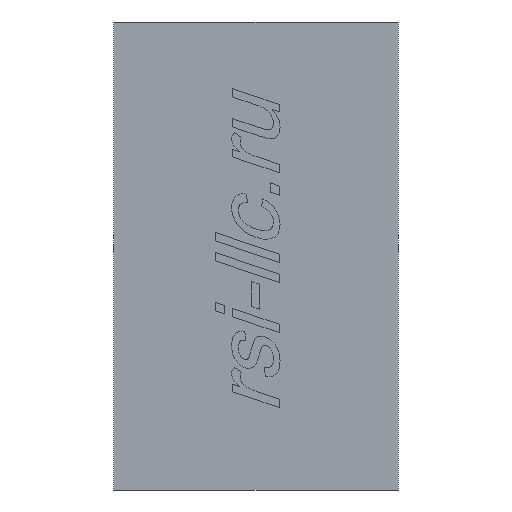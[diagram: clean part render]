
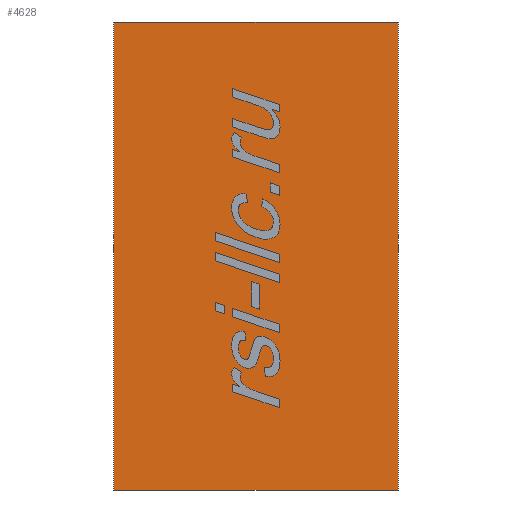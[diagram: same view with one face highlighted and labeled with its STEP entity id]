
A CAD part, front view. The second image highlights one B-rep face of the part: STEP entity #4628.
In plain terms, the highlighted planar face has unit normal (0, -1, 0).
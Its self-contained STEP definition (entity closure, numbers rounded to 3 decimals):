
#64 = EDGE_CURVE ( 'NONE', #5652, #3035, #6080, .T. ) ;
#221 = ORIENTED_EDGE ( 'NONE', *, *, #2865, .F. ) ;
#416 = LINE ( 'NONE', #2524, #4509 ) ;
#526 = EDGE_CURVE ( 'NONE', #4043, #6319, #2431, .T. ) ;
#769 = DIRECTION ( 'NONE',  ( 0., 0., -1. ) ) ;
#1086 = VECTOR ( 'NONE', #3523, 1000. ) ;
#1405 = CARTESIAN_POINT ( 'NONE',  ( 41., 0., 67.5 ) ) ;
#1434 = CARTESIAN_POINT ( 'NONE',  ( 41., 0., -67.5 ) ) ;
#2431 = LINE ( 'NONE', #4495, #2573 ) ;
#2524 = CARTESIAN_POINT ( 'NONE',  ( -41., 0., 67.5 ) ) ;
#2573 = VECTOR ( 'NONE', #6534, 1000. ) ;
#2865 = EDGE_CURVE ( 'NONE', #4043, #5652, #3378, .T. ) ;
#3011 = EDGE_CURVE ( 'NONE', #6319, #3035, #416, .T. ) ;
#3035 = VERTEX_POINT ( 'NONE', #3594 ) ;
#3378 = LINE ( 'NONE', #5441, #3968 ) ;
#3494 = DIRECTION ( 'NONE',  ( 0., 1., 0. ) ) ;
#3523 = DIRECTION ( 'NONE',  ( -1., 0., 0. ) ) ;
#3594 = CARTESIAN_POINT ( 'NONE',  ( -41., 0., -67.5 ) ) ;
#3758 = ORIENTED_EDGE ( 'NONE', *, *, #64, .F. ) ;
#3968 = VECTOR ( 'NONE', #769, 1000. ) ;
#4003 = FACE_OUTER_BOUND ( 'NONE', #4825, .T. ) ;
#4043 = VERTEX_POINT ( 'NONE', #4473 ) ;
#4183 = CARTESIAN_POINT ( 'NONE',  ( 41., 0., -67.5 ) ) ;
#4473 = CARTESIAN_POINT ( 'NONE',  ( 41., 0., 67.5 ) ) ;
#4495 = CARTESIAN_POINT ( 'NONE',  ( 41., 0., 67.5 ) ) ;
#4509 = VECTOR ( 'NONE', #4584, 1000. ) ;
#4584 = DIRECTION ( 'NONE',  ( 0., 0., -1. ) ) ;
#4628 = ADVANCED_FACE ( 'NONE', ( #4003 ), #6050, .F. ) ;
#4825 = EDGE_LOOP ( 'NONE', ( #6071, #3758, #221, #6604 ) ) ;
#5441 = CARTESIAN_POINT ( 'NONE',  ( 41., 0., 67.5 ) ) ;
#5552 = DIRECTION ( 'NONE',  ( 0., 0., 1. ) ) ;
#5652 = VERTEX_POINT ( 'NONE', #4183 ) ;
#5773 = CARTESIAN_POINT ( 'NONE',  ( -41., 0., 67.5 ) ) ;
#5966 = AXIS2_PLACEMENT_3D ( 'NONE', #1405, #3494, #5552 ) ;
#6050 = PLANE ( 'NONE',  #5966 ) ;
#6071 = ORIENTED_EDGE ( 'NONE', *, *, #3011, .T. ) ;
#6080 = LINE ( 'NONE', #1434, #1086 ) ;
#6319 = VERTEX_POINT ( 'NONE', #5773 ) ;
#6534 = DIRECTION ( 'NONE',  ( -1., 0., 0. ) ) ;
#6604 = ORIENTED_EDGE ( 'NONE', *, *, #526, .T. ) ;
